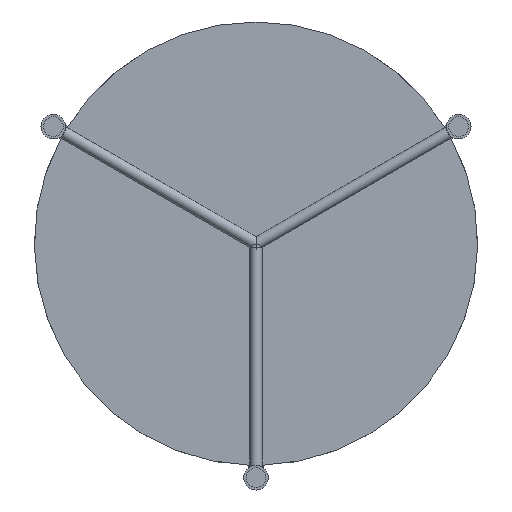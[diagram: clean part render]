
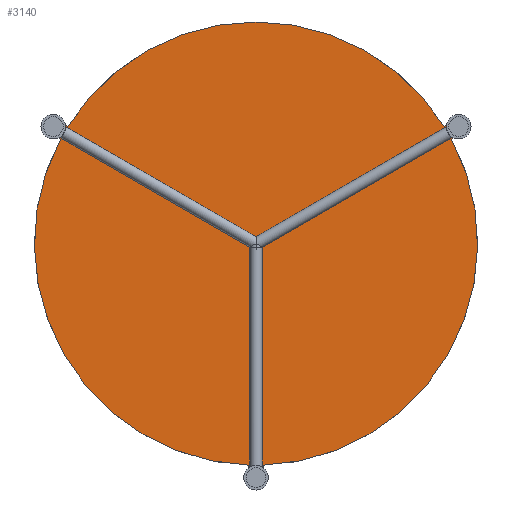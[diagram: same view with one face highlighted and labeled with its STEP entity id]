
A CAD part, front view. The second image highlights one B-rep face of the part: STEP entity #3140.
In plain terms, the highlighted planar face has unit normal (0, -1, 0).
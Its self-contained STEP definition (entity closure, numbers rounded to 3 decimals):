
#17 = VECTOR ( 'NONE', #2859, 1000. ) ;
#21 = AXIS2_PLACEMENT_3D ( 'NONE', #2109, #314, #1353 ) ;
#46 = DIRECTION ( 'NONE',  ( 0., 0., -1. ) ) ;
#111 = VERTEX_POINT ( 'NONE', #2667 ) ;
#193 = VERTEX_POINT ( 'NONE', #594 ) ;
#279 = ORIENTED_EDGE ( 'NONE', *, *, #2234, .T. ) ;
#291 = EDGE_CURVE ( 'NONE', #1538, #3104, #2733, .T. ) ;
#310 = CIRCLE ( 'NONE', #21, 10. ) ;
#314 = DIRECTION ( 'NONE',  ( 0., 1., 0. ) ) ;
#379 = EDGE_CURVE ( 'NONE', #4367, #778, #662, .T. ) ;
#471 = DIRECTION ( 'NONE',  ( 0., 0., -1. ) ) ;
#525 = ORIENTED_EDGE ( 'NONE', *, *, #4033, .T. ) ;
#579 = CARTESIAN_POINT ( 'NONE',  ( 0., 399., 0. ) ) ;
#594 = CARTESIAN_POINT ( 'NONE',  ( 152.798, 399., 95.146 ) ) ;
#595 = VECTOR ( 'NONE', #1007, 1000. ) ;
#630 = EDGE_CURVE ( 'NONE', #2938, #4389, #4496, .T. ) ;
#662 = LINE ( 'NONE', #3495, #4449 ) ;
#694 = ORIENTED_EDGE ( 'NONE', *, *, #1617, .T. ) ;
#704 = DIRECTION ( 'NONE',  ( 0., 1., 0. ) ) ;
#736 = AXIS2_PLACEMENT_3D ( 'NONE', #1135, #2222, #3621 ) ;
#766 = CARTESIAN_POINT ( 'NONE',  ( 167.605, 399., 89.839 ) ) ;
#778 = VERTEX_POINT ( 'NONE', #2099 ) ;
#785 = DIRECTION ( 'NONE',  ( 0., -1., 0. ) ) ;
#804 = VERTEX_POINT ( 'NONE', #1344 ) ;
#842 = CARTESIAN_POINT ( 'NONE',  ( -152.798, 399., 95.146 ) ) ;
#893 = CIRCLE ( 'NONE', #736, 10. ) ;
#897 = ORIENTED_EDGE ( 'NONE', *, *, #1306, .T. ) ;
#929 = DIRECTION ( 'NONE',  ( 0., -1., 0. ) ) ;
#962 = AXIS2_PLACEMENT_3D ( 'NONE', #1795, #3616, #4239 ) ;
#1007 = DIRECTION ( 'NONE',  ( 0.866, 0., -0.5 ) ) ;
#1027 = VECTOR ( 'NONE', #471, 1000. ) ;
#1083 = EDGE_LOOP ( 'NONE', ( #3672, #279, #3102, #2495, #3658, #525, #2210, #3250, #897, #694, #1960, #2925, #4359 ) ) ;
#1135 = CARTESIAN_POINT ( 'NONE',  ( -164.605, 399., 95.035 ) ) ;
#1183 = AXIS2_PLACEMENT_3D ( 'NONE', #579, #929, #1529 ) ;
#1288 = CARTESIAN_POINT ( 'NONE',  ( -6., 399., -190.07 ) ) ;
#1306 = EDGE_CURVE ( 'NONE', #3027, #3053, #2527, .T. ) ;
#1344 = CARTESIAN_POINT ( 'NONE',  ( 154.677, 399., 96.231 ) ) ;
#1353 = DIRECTION ( 'NONE',  ( 0., 0., -1. ) ) ;
#1413 = PLANE ( 'NONE',  #962 ) ;
#1509 = EDGE_CURVE ( 'NONE', #4389, #3027, #2994, .T. ) ;
#1529 = DIRECTION ( 'NONE',  ( 0., 0., -1. ) ) ;
#1538 = VERTEX_POINT ( 'NONE', #3308 ) ;
#1596 = DIRECTION ( 'NONE',  ( 0., 0., -1. ) ) ;
#1617 = EDGE_CURVE ( 'NONE', #3053, #804, #310, .T. ) ;
#1665 = DIRECTION ( 'NONE',  ( -0.866, 0., -0.5 ) ) ;
#1751 = EDGE_CURVE ( 'NONE', #3512, #4367, #2093, .T. ) ;
#1795 = CARTESIAN_POINT ( 'NONE',  ( 0., 399., 0. ) ) ;
#1822 = CARTESIAN_POINT ( 'NONE',  ( 6., 399., -179.9 ) ) ;
#1868 = VECTOR ( 'NONE', #1665, 1000. ) ;
#1952 = LINE ( 'NONE', #4322, #1868 ) ;
#1960 = ORIENTED_EDGE ( 'NONE', *, *, #3043, .T. ) ;
#2084 = VECTOR ( 'NONE', #2105, 1000. ) ;
#2092 = CIRCLE ( 'NONE', #1183, 180. ) ;
#2093 = CIRCLE ( 'NONE', #2624, 180. ) ;
#2096 = AXIS2_PLACEMENT_3D ( 'NONE', #3246, #704, #46 ) ;
#2099 = CARTESIAN_POINT ( 'NONE',  ( -154.677, 399., 96.231 ) ) ;
#2105 = DIRECTION ( 'NONE',  ( 0., 0., 1. ) ) ;
#2109 = CARTESIAN_POINT ( 'NONE',  ( 164.605, 399., 95.035 ) ) ;
#2185 = DIRECTION ( 'NONE',  ( 0., -1., 0. ) ) ;
#2210 = ORIENTED_EDGE ( 'NONE', *, *, #630, .T. ) ;
#2222 = DIRECTION ( 'NONE',  ( 0., 1., 0. ) ) ;
#2234 = EDGE_CURVE ( 'NONE', #778, #111, #893, .T. ) ;
#2274 = CARTESIAN_POINT ( 'NONE',  ( 158.798, 399., 84.754 ) ) ;
#2409 = CARTESIAN_POINT ( 'NONE',  ( 0., 399., 0. ) ) ;
#2495 = ORIENTED_EDGE ( 'NONE', *, *, #2660, .T. ) ;
#2527 = LINE ( 'NONE', #766, #17 ) ;
#2623 = CIRCLE ( 'NONE', #2096, 10. ) ;
#2624 = AXIS2_PLACEMENT_3D ( 'NONE', #2409, #785, #4284 ) ;
#2660 = EDGE_CURVE ( 'NONE', #4081, #1538, #3349, .T. ) ;
#2667 = CARTESIAN_POINT ( 'NONE',  ( -160.677, 399., 85.839 ) ) ;
#2733 = LINE ( 'NONE', #1288, #1027 ) ;
#2781 = LINE ( 'NONE', #3448, #595 ) ;
#2792 = DIRECTION ( 'NONE',  ( 0., 0., -1. ) ) ;
#2825 = CARTESIAN_POINT ( 'NONE',  ( 0., 399., 0. ) ) ;
#2839 = EDGE_CURVE ( 'NONE', #111, #4081, #2781, .T. ) ;
#2859 = DIRECTION ( 'NONE',  ( 0.866, 0., 0.5 ) ) ;
#2925 = ORIENTED_EDGE ( 'NONE', *, *, #3519, .T. ) ;
#2938 = VERTEX_POINT ( 'NONE', #4543 ) ;
#2994 = CIRCLE ( 'NONE', #3281, 180. ) ;
#3027 = VERTEX_POINT ( 'NONE', #2274 ) ;
#3043 = EDGE_CURVE ( 'NONE', #804, #193, #1952, .T. ) ;
#3053 = VERTEX_POINT ( 'NONE', #3951 ) ;
#3066 = AXIS2_PLACEMENT_3D ( 'NONE', #2825, #2185, #2792 ) ;
#3102 = ORIENTED_EDGE ( 'NONE', *, *, #2839, .T. ) ;
#3104 = VERTEX_POINT ( 'NONE', #3453 ) ;
#3140 = ADVANCED_FACE ( 'NONE', ( #4281 ), #1413, .T. ) ;
#3246 = CARTESIAN_POINT ( 'NONE',  ( 0., 399., -190.07 ) ) ;
#3250 = ORIENTED_EDGE ( 'NONE', *, *, #1509, .T. ) ;
#3281 = AXIS2_PLACEMENT_3D ( 'NONE', #4459, #3395, #1596 ) ;
#3308 = CARTESIAN_POINT ( 'NONE',  ( -6., 399., -179.9 ) ) ;
#3349 = CIRCLE ( 'NONE', #3066, 180. ) ;
#3395 = DIRECTION ( 'NONE',  ( 0., -1., 0. ) ) ;
#3448 = CARTESIAN_POINT ( 'NONE',  ( -158.798, 399., 84.754 ) ) ;
#3453 = CARTESIAN_POINT ( 'NONE',  ( -6., 399., -182.07 ) ) ;
#3495 = CARTESIAN_POINT ( 'NONE',  ( -161.605, 399., 100.231 ) ) ;
#3512 = VERTEX_POINT ( 'NONE', #4103 ) ;
#3519 = EDGE_CURVE ( 'NONE', #193, #3512, #2092, .T. ) ;
#3616 = DIRECTION ( 'NONE',  ( 0., -1., 0. ) ) ;
#3621 = DIRECTION ( 'NONE',  ( 0., 0., -1. ) ) ;
#3658 = ORIENTED_EDGE ( 'NONE', *, *, #291, .T. ) ;
#3672 = ORIENTED_EDGE ( 'NONE', *, *, #379, .T. ) ;
#3951 = CARTESIAN_POINT ( 'NONE',  ( 160.677, 399., 85.839 ) ) ;
#4033 = EDGE_CURVE ( 'NONE', #3104, #2938, #2623, .T. ) ;
#4081 = VERTEX_POINT ( 'NONE', #4324 ) ;
#4103 = CARTESIAN_POINT ( 'NONE',  ( 0., 399., 180. ) ) ;
#4239 = DIRECTION ( 'NONE',  ( 0., 0., -1. ) ) ;
#4281 = FACE_OUTER_BOUND ( 'NONE', #1083, .T. ) ;
#4284 = DIRECTION ( 'NONE',  ( 0., 0., -1. ) ) ;
#4322 = CARTESIAN_POINT ( 'NONE',  ( 152.798, 399., 95.146 ) ) ;
#4324 = CARTESIAN_POINT ( 'NONE',  ( -158.798, 399., 84.754 ) ) ;
#4359 = ORIENTED_EDGE ( 'NONE', *, *, #1751, .T. ) ;
#4367 = VERTEX_POINT ( 'NONE', #842 ) ;
#4389 = VERTEX_POINT ( 'NONE', #1822 ) ;
#4449 = VECTOR ( 'NONE', #4528, 1000. ) ;
#4459 = CARTESIAN_POINT ( 'NONE',  ( 0., 399., 0. ) ) ;
#4496 = LINE ( 'NONE', #4539, #2084 ) ;
#4528 = DIRECTION ( 'NONE',  ( -0.866, 0., 0.5 ) ) ;
#4539 = CARTESIAN_POINT ( 'NONE',  ( 6., 399., -179.9 ) ) ;
#4543 = CARTESIAN_POINT ( 'NONE',  ( 6., 399., -182.07 ) ) ;
